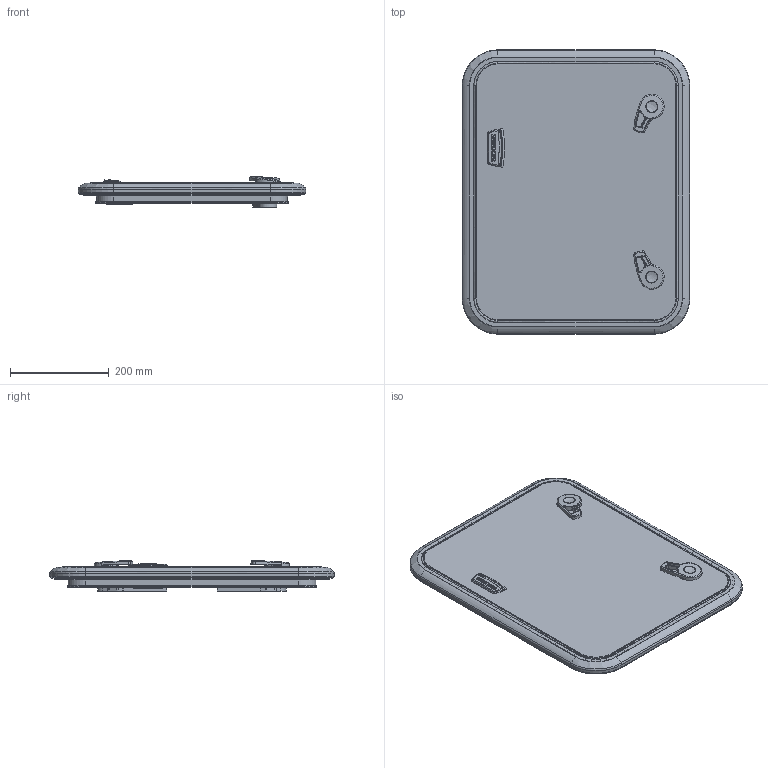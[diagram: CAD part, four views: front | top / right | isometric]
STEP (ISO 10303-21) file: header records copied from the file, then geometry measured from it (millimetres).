
FILE_DESCRIPTION((''),'2;1');
FILE_NAME('LEWMAR-HATCH-LOWPRO-54_ASM','2008-02-05T',('skennedy'),(''),'PRO/ENGINEER BY PARAMETRIC TECHNOLOGY CORPORATION, 2007030','PRO/ENGINEER BY PARAMETRIC TECHNOLOGY CORPORATION, 2007030','');
FILE_SCHEMA(('CONFIG_CONTROL_DESIGN'));
Length unit declared in the file: millimetre
Products named in the file (6): FRAME_54; 3595453X; HANDLE_LP_LHS; HANDLE_LP_RHS; HINGE_LEVER_LP; LEWMAR-HATCH-LOWPRO-54_ASM
Assembly tree (5 placements, depth 2):
  LEWMAR-HATCH-LOWPRO-54_ASM
    FRAME_54
    3595453X
    HANDLE_LP_LHS
    HANDLE_LP_RHS
    HINGE_LEVER_LP
Bounding box: 462 x 577 x 61.17 mm (x, y, z)
Volume: 3807209.9 mm3; surface area: 885688.8 mm2
Topology: 5 solids, 5 shells, 891 faces, 2228 edges, 1364 vertices
Faces by surface type: bspline 346, plane 297, cylinder 135, cone 41, torus 35, extrusion 23, sphere 14
Entity records: 38350 total; most frequent: CARTESIAN_POINT 19351, ORIENTED_EDGE 4432, DIRECTION 3011, EDGE_CURVE 2216, VERTEX_POINT 1364, AXIS2_PLACEMENT_3D 1053, EDGE_LOOP 950, VECTOR 905
